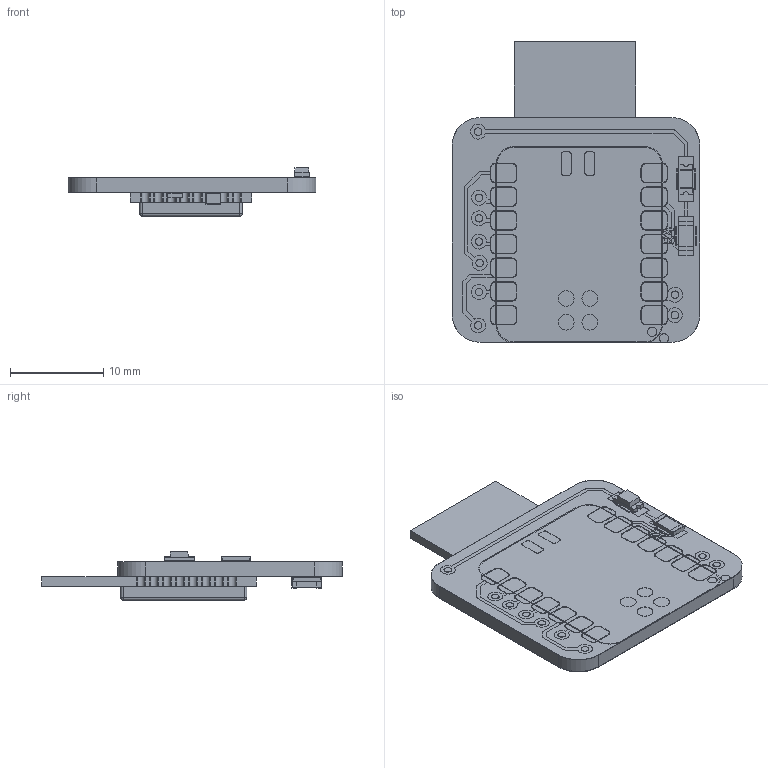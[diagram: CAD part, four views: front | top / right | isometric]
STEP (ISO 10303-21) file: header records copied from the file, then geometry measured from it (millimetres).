
FILE_DESCRIPTION(('KiCad electronic assembly'),'2;1');
FILE_NAME('BU01.step','2025-04-07T18:51:03',('Pcbnew'),('Kicad'), 'Open CASCADE STEP processor 7.8','KiCad to STEP converter','Unknown' );
FILE_SCHEMA(('AUTOMOTIVE_DESIGN { 1 0 10303 214 1 1 1 1 }'));
Length unit declared in the file: millimetre
Products named in the file (21): BU01 1; Resistor-1206; Ceramic; Contacts; Contacts (Mirror #1); Overcoat; LED-1206; Base; Emmiter; Contact_1; Contact_2; Capacitor-1206; Body; Contact; ContactClone; BU01; BU01_copper; BU01_silkscreen; BU01_soldermask; BU01_PCB; BU01 2
Assembly tree (20 placements, depth 3):
  BU01 1
    Resistor-1206  x2
      Ceramic
      Contacts
      Contacts (Mirror #1)
      Overcoat
    LED-1206
      Base
      Emmiter
      Contact_1
      Contact_2
    Capacitor-1206
      Body
      Contact
      ContactClone
    BU01
    BU01_copper
    BU01_silkscreen
    BU01_soldermask
    BU01_PCB
  BU01 2
Bounding box: 26.6 x 32.25 x 5.18 mm (x, y, z)
Volume: 1493.6 mm3; surface area: 4666.8 mm2
Topology: 74 solids, 94 shells, 1182 faces, 3484 edges, 2487 vertices
Faces by surface type: plane 959, cylinder 217, sphere 4, bspline 2
Full cylindrical faces by diameter (mm): 0.8 x9, 0.85 x18, 1.7 x4
Entity records: 39679 total; most frequent: CARTESIAN_POINT 7176, DIRECTION 6327, ORIENTED_EDGE 6319, EDGE_CURVE 3412, LINE 2827, VECTOR 2827, VERTEX_POINT 2439, AXIS2_PLACEMENT_3D 1750
